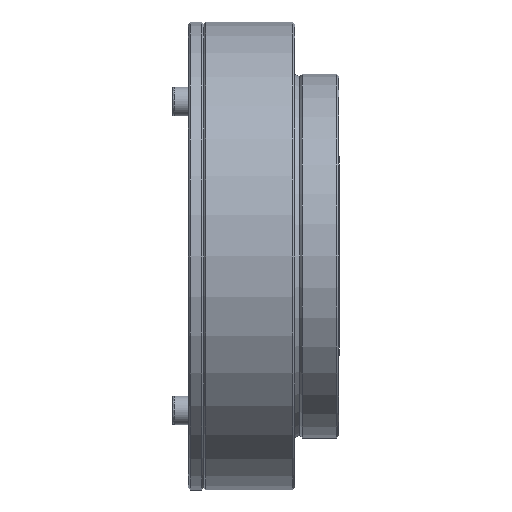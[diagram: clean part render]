
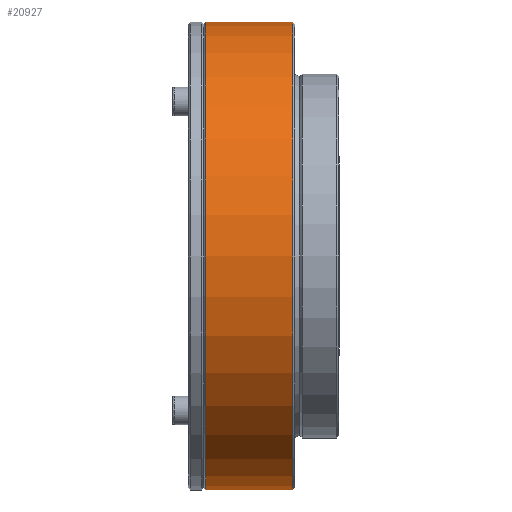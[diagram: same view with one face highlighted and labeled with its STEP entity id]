
A CAD part, front view. The second image highlights one B-rep face of the part: STEP entity #20927.
In plain terms, the highlighted cylindrical face has radius 45 mm (diameter 90 mm), a full revolution.
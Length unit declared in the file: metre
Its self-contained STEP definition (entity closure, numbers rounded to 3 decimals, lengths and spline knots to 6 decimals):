
#103 = FACE_OUTER_BOUND ( 'NONE', #16859, .T. ) ;
#1816 = DIRECTION ( 'NONE',  ( -1., 0., 0. ) ) ;
#3607 = DIRECTION ( 'NONE',  ( 0., 0.866, -0.5 ) ) ;
#3826 = DIRECTION ( 'NONE',  ( 1., 0., 0. ) ) ;
#5293 = VERTEX_POINT ( 'NONE', #12572 ) ;
#5330 = CARTESIAN_POINT ( 'NONE',  ( -0.014569, 0., 0. ) ) ;
#5999 = AXIS2_PLACEMENT_3D ( 'NONE', #12264, #19212, #3607 ) ;
#7041 = AXIS2_PLACEMENT_3D ( 'NONE', #5330, #1816, #21387 ) ;
#7610 = VERTEX_POINT ( 'NONE', #21493 ) ;
#8549 = EDGE_CURVE ( 'NONE', #7610, #7610, #10875, .T. ) ;
#10875 = CIRCLE ( 'NONE', #20339, 0.045 ) ;
#12264 = CARTESIAN_POINT ( 'NONE',  ( 0.0052, 0., 0. ) ) ;
#12388 = CYLINDRICAL_SURFACE ( 'NONE', #7041, 0.045 ) ;
#12572 = CARTESIAN_POINT ( 'NONE',  ( 0.0052, 0.038971, -0.0225 ) ) ;
#12581 = EDGE_CURVE ( 'NONE', #5293, #5293, #16194, .T. ) ;
#12697 = DIRECTION ( 'NONE',  ( 0., 0.866, -0.5 ) ) ;
#14435 = FACE_OUTER_BOUND ( 'NONE', #21898, .T. ) ;
#16194 = CIRCLE ( 'NONE', #5999, 0.045 ) ;
#16859 = EDGE_LOOP ( 'NONE', ( #21171 ) ) ;
#18701 = ORIENTED_EDGE ( 'NONE', *, *, #8549, .T. ) ;
#19212 = DIRECTION ( 'NONE',  ( -1., 0., 0. ) ) ;
#20339 = AXIS2_PLACEMENT_3D ( 'NONE', #21363, #3826, #12697 ) ;
#20927 = ADVANCED_FACE ( 'NONE', ( #14435, #103 ), #12388, .T. ) ;
#21171 = ORIENTED_EDGE ( 'NONE', *, *, #12581, .T. ) ;
#21363 = CARTESIAN_POINT ( 'NONE',  ( -0.0115, 0., 0. ) ) ;
#21387 = DIRECTION ( 'NONE',  ( 0., 0.866, -0.5 ) ) ;
#21493 = CARTESIAN_POINT ( 'NONE',  ( -0.0115, 0.038971, -0.0225 ) ) ;
#21898 = EDGE_LOOP ( 'NONE', ( #18701 ) ) ;
